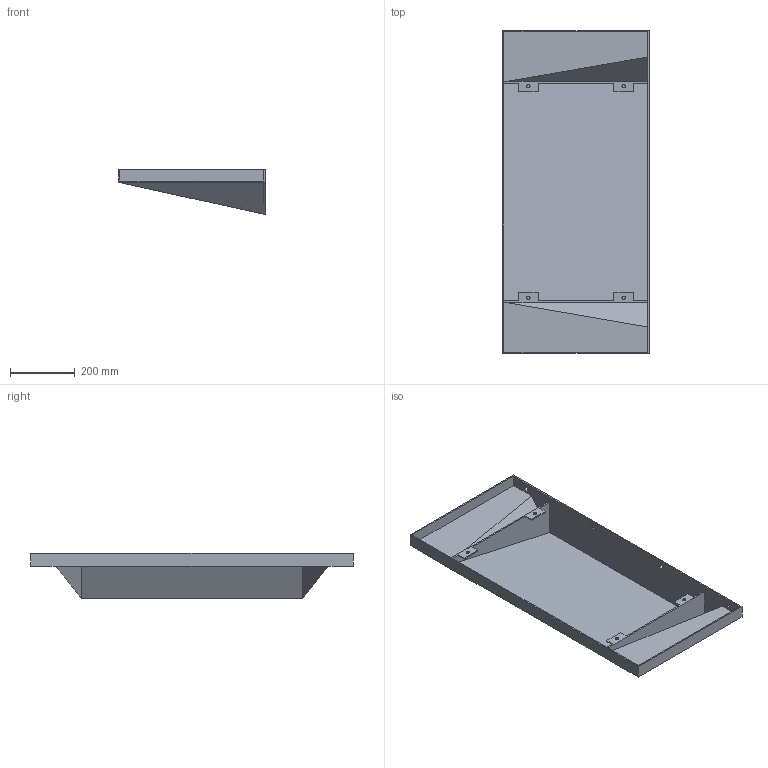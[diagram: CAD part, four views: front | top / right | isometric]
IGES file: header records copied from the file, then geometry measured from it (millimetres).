
Start section: START RECORD GO HERE.
Global section: file name: 2088_3D.igs; native system: DASSAULT SYSTEMES CATIA V5 R19 - www.3ds.com; preprocessor: CATIA Version 5 Release 19 SP 5 ; author: gioge; organization: LAPTOP-G94B6G74; date: 20201024.091341; units: millimetre
Bounding box: 455 x 1000 x 140 mm (x, y, z)
Surface area: 1466073.2 mm2 (no closed solid volume)
Topology: 0 solids, 0 shells, 72 faces, 406 edges, 406 vertices
Faces by surface type: plane 52, revolution 20
